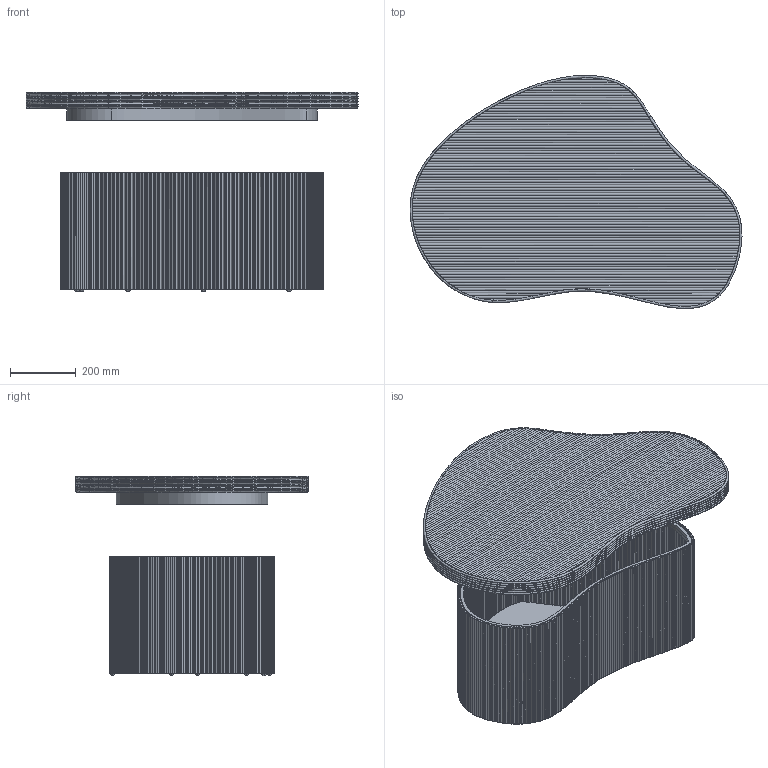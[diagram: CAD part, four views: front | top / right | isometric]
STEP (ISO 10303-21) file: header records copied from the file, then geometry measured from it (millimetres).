
FILE_DESCRIPTION(/* description */ (''),/* implementation_level */ '2;1');
FILE_NAME(/* name */ 'Isola coffee table_3D',/* time_stamp */ '2024-09-03T16:00:18+02:00',/* author */ (''),/* organization */ (''),/* preprocessor_version */ 'ST-DEVELOPER v16.5',/* originating_system */ 'Rhino 7.37',/* authorisation */ '');
FILE_SCHEMA (('CONFIG_CONTROL_DESIGN'));
Length unit declared in the file: millimetre
Products named in the file (1): Document
Bounding box: 1007.77 x 707.61 x 604.71 mm (x, y, z)
Volume: 14781081.3 mm3; surface area: 6341909.8 mm2
Topology: 274 solids, 365 shells, 1291 faces, 2243 edges, 1480 vertices
Faces by surface type: plane 533, cylinder 402, bspline 356
Entity records: 60705 total; most frequent: CARTESIAN_POINT 44921, ORIENTED_EDGE 4097, EDGE_CURVE 2230, VERTEX_POINT 1479, EDGE_LOOP 1297, ADVANCED_FACE 1291, FACE_OUTER_BOUND 1291, DIRECTION 940
